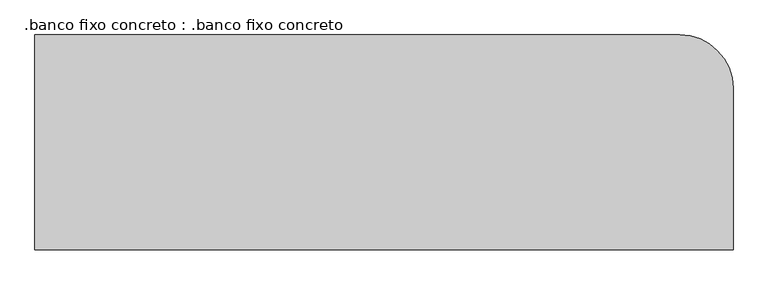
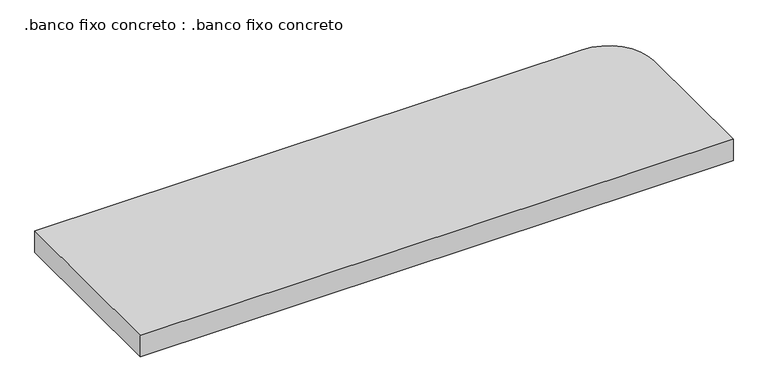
"""IFC4 building model written with IfcOpenShell, lengths in millimetres: proxy geometry, .banco fixo concreto : .banco fixo concreto."""

from ifc_helpers import new_model, si_unit, point, frame, frame_2d, origin, place, context, project, spatial, polyline, circle_curve, trimmed, segment, composite_curve, outline, extrude, source, transform, mapped, element, save


def banco_fixo_concreto_banco_fixo_concreto_6df44552(model_context):
    return source(origin(), model_context, "Body", "SweptSolid", [
        extrude(outline(composite_curve([segment(polyline([(-5767.2739616, -14618.4198092), (-5767.2739616, -14215.5635244), (-4557.2739616, -14215.5635244)]), True, "CONTINUOUS"), segment(trimmed(circle_curve(frame_2d((-4557.2739616, -14315.5635244)), 100.0), [point((-4557.2739616, -14215.5635244))], [point((-4457.2739616, -14315.5635244))], False, "CARTESIAN"), True, "CONTINUOUS"), segment(polyline([(-4457.2739616, -14315.5635244), (-4457.2739616, -14618.4198092), (-5767.2739616, -14618.4198092)]), True, "CONTINUOUS")], self_intersect=False)), frame((0.0, 0.0, 500.0), z_axis=(0.0, 0.0, 1.0), x_axis=(1.0, 0.0, 0.0)), (0.0, 0.0, 1.0), 50.0),
    ])


if __name__ == "__main__":
    model = new_model("IFC4")
    model_context = context("Model", 3, world=origin())
    ifc_project = project(units=[si_unit("LENGTHUNIT", "METRE", prefix="MILLI")], contexts=[model_context])
    site = spatial("IfcSite", under=ifc_project)
    building = spatial("IfcBuilding", under=site)
    placement = place(None, origin())
    banco_fixo_concreto_banco_fixo_concreto_shape = banco_fixo_concreto_banco_fixo_concreto_6df44552(model_context)
    element("IfcBuildingElementProxy", 1, Name=".banco fixo concreto : .banco fixo concreto", ObjectType=".banco fixo concreto : .banco fixo concreto", at=placement, inside=building, context=model_context, shape_type="MappedRepresentation", body=[
        mapped(banco_fixo_concreto_banco_fixo_concreto_shape, transform((0.0, 0.0, 0.0), x_axis=(1.0, 0.0, 0.0), y_axis=(0.0, 1.0, 0.0), z_axis=(0.0, 0.0, 1.0))),
    ])
    save(model, "model.ifc")
